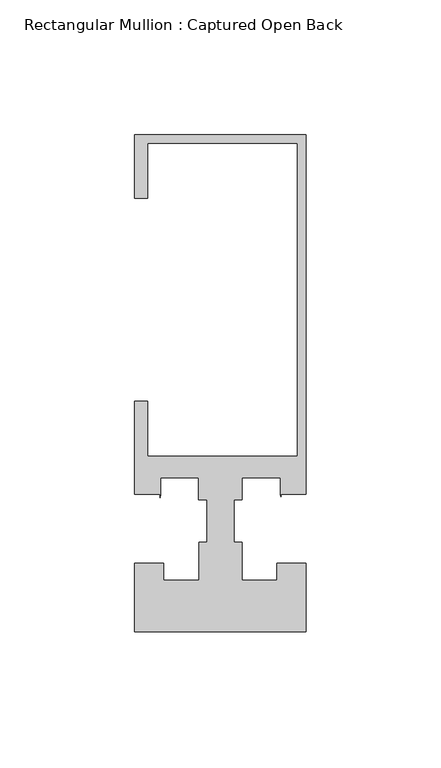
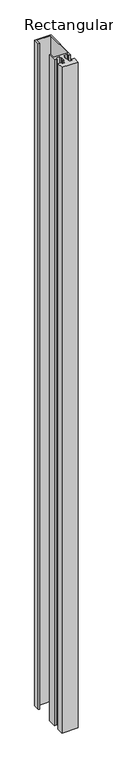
"""IFC4 building model written with IfcOpenShell, lengths in millimetres: member geometry, Rectangular Mullion : Captured Open Back."""

from ifc_helpers import new_model, si_unit, frame, origin, place, context, project, spatial, polyline, outline, extrude, source, transform, mapped, element, save


def rectangular_mullion_captured_open_back_d6f5ffe3(model_context):
    return source(origin(), model_context, "Body", "SweptSolid", [
        extrude(outline(polyline([(-63.5205663, 114.3), (0.0, 114.3), (0.0, -18.9488461), (-9.3386849, -18.9488461), (-9.3386849, -19.8905485), (-9.5249909, -18.948961), (-9.5249909, -12.7), (-23.8124458, -12.7), (-23.8124458, -20.8793999), (-26.7860526, -20.8793999), (-26.7860526, -36.6491027), (-23.8124461, -36.6491027), (-23.8124461, -50.8001709), (-10.7229117, -50.8001709), (-10.7229117, -44.4247364), (-0.0205663, -44.4247364), (-0.0205663, -69.8502416), (-63.5205663, -69.8502416), (-63.5205663, -44.4245655), (-52.8345479, -44.4245655), (-52.8345479, -50.8001709), (-39.6874472, -50.8001709), (-39.6874472, -36.6491027), (-36.738785, -36.6491027), (-36.738785, -20.8793999), (-39.7916658, -20.8793999), (-39.7916658, -12.7), (-53.9751125, -12.7), (-53.9751125, -18.933673), (-54.1413824, -20.0839351), (-54.1413824, -18.933673), (-63.5205663, -18.933673), (-63.5205663, 15.5833982), (-58.7374998, 15.5833982), (-58.7374998, -4.7625735), (-3.175617, -4.7625735), (-3.175617, 111.1250145), (-58.7374998, 111.1250145), (-58.7374998, 90.8721193), (-63.5205663, 90.8721193), (-63.5205663, 114.3)])), frame((0.0, 0.0, -2743.2), z_axis=(0.0, 0.0, 1.0), x_axis=(1.0, 0.0, 0.0)), (0.0, 0.0, 1.0), 2743.2),
    ])


if __name__ == "__main__":
    model = new_model("IFC4")
    model_context = context("Model", 3, world=origin())
    ifc_project = project(units=[si_unit("LENGTHUNIT", "METRE", prefix="MILLI")], contexts=[model_context])
    site = spatial("IfcSite", under=ifc_project)
    building = spatial("IfcBuilding", under=site)
    placement = place(None, origin())
    rectangular_mullion_captured_open_back_shape = rectangular_mullion_captured_open_back_d6f5ffe3(model_context)
    element("IfcMember", 1, ObjectType="Rectangular Mullion : Captured Open Back", at=placement, inside=building, context=model_context, shape_type="MappedRepresentation", body=[
        mapped(rectangular_mullion_captured_open_back_shape, transform((0.0, 0.0, 0.0), x_axis=(1.0, 0.0, 0.0), y_axis=(0.0, 1.0, 0.0), z_axis=(0.0, 0.0, 1.0))),
    ])
    save(model, "model.ifc")
